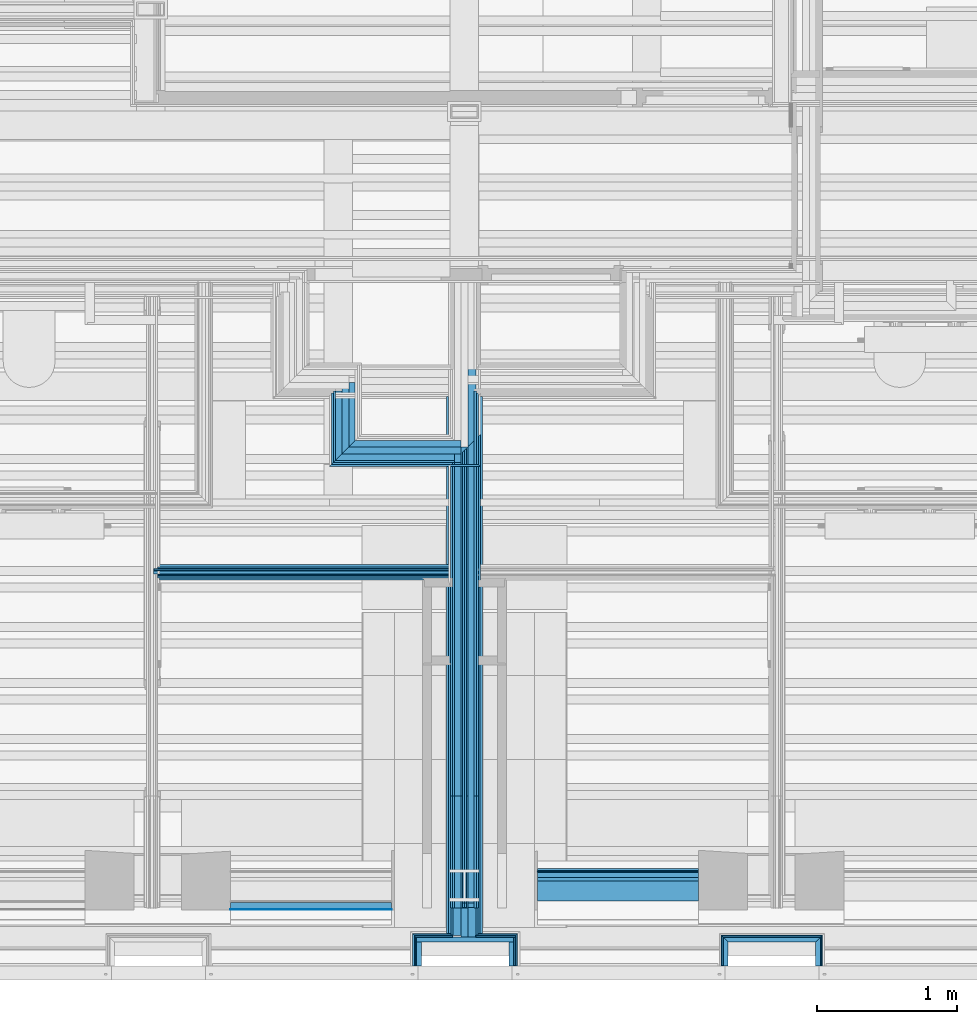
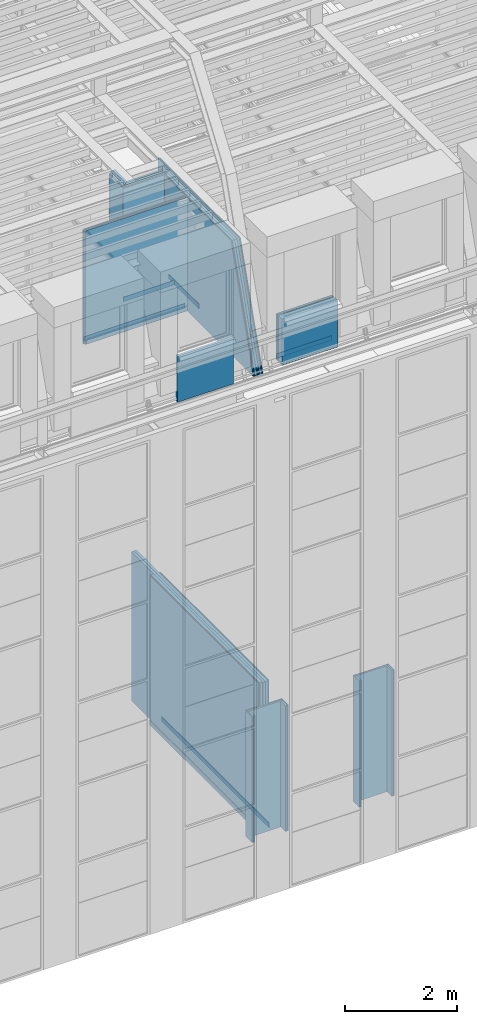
# One storey, part 33 of 183: 61 building element parts, 13 elements without a shape of their own.
"""IFC2X3 building model written with IfcOpenShell, lengths in metres."""

import ifcopenshell
import ifcopenshell.guid

model = None  # the IFC model being written
_history = None  # IfcOwnerHistory: only IFC2X3 demands one
_inside = {}  # id of a spatial element -> (the spatial element, [elements in it])
_under = {}  # id of a project, library or spatial element -> (it, [spatial elements below it])
_declared = {}  # id of a project -> (the project, [libraries it declares])
_typed = {}  # id of a type object -> (the type object, [elements of that type])
_made_of = {}  # id of a material, layer set ... -> (it, [elements and type objects made of it])


def new_model(schema):
    """Start an empty IFC model of exactly this schema.

    Asked for "IFC4X3", IfcOpenShell would pick the latest addendum, in which some entities
    have other attributes; the version numbers below select the first issue.
    IFC2X3 requires an IfcOwnerHistory on every rooted entity: one is made here for all.
    """
    global model, _history
    if schema == "IFC4X3":
        model = ifcopenshell.file(schema_version=(4, 3, 0, 0))
    else:
        model = ifcopenshell.file(schema=schema)
    _inside.clear()
    _under.clear()
    _declared.clear()
    _typed.clear()
    _made_of.clear()
    _history = None
    if model.schema == "IFC2X3":
        org = make("IfcOrganization", Name="unknown")
        user = make(
            "IfcPersonAndOrganization",
            ThePerson=make("IfcPerson", FamilyName="unknown"),
            TheOrganization=org,
        )
        app = make(
            "IfcApplication",
            ApplicationDeveloper=org,
            Version="unknown",
            ApplicationFullName="unknown",
            ApplicationIdentifier="unknown",
        )
        _history = make(
            "IfcOwnerHistory",
            OwningUser=user,
            OwningApplication=app,
            ChangeAction="ADDED",
            CreationDate=0,
        )
    return model


def make(cls, **values):
    """One entity of the class cls with the attributes given. An attribute that is None is left unset."""
    return model.create_entity(
        cls, **{name: value for name, value in values.items() if value is not None}
    )


def entity(cls, *values):
    """Any entity or typed value of the class cls, its attributes in the order of the schema. None: left unset."""
    e = model.create_entity(cls)
    for i, value in enumerate(values):
        if value is not None:
            e[i] = value
    return e


def rooted(cls, **values):
    """An entity with a GlobalId (a new one), such as an element, a storey or a relation."""
    return make(cls, GlobalId=ifcopenshell.guid.new(), OwnerHistory=_history, **values)


def si_unit(unit_type, name, prefix=None):
    """IfcSIUnit, for example si_unit("LENGTHUNIT", "METRE", prefix="MILLI")."""
    return make("IfcSIUnit", UnitType=unit_type, Prefix=prefix, Name=name)


def converted_unit(unit_type, name, factor, base, dimensions=None, offset=None):
    """IfcConversionBasedUnit, such as the inch: factor (a typed value) times the base unit."""
    return make(
        "IfcConversionBasedUnit"
        if offset is None
        else "IfcConversionBasedUnitWithOffset",
        ConversionOffset=offset,
        Dimensions=None
        if dimensions is None
        else entity("IfcDimensionalExponents", *dimensions),
        UnitType=unit_type,
        Name=name,
        ConversionFactor=make(
            "IfcMeasureWithUnit", ValueComponent=factor, UnitComponent=base
        ),
    )


def derived_unit(unit_type, elements):
    """IfcDerivedUnit: a product of units, each with its exponent."""
    return make(
        "IfcDerivedUnit",
        Elements=[
            make("IfcDerivedUnitElement", Unit=unit, Exponent=power)
            for unit, power in elements
        ],
        UnitType=unit_type,
    )


def money_unit(currency):
    """IfcMonetaryUnit."""
    return make("IfcMonetaryUnit", Currency=currency)


def assignment(units):
    """IfcUnitAssignment: the units of a project."""
    return None if units is None else make("IfcUnitAssignment", Units=units)


def point(xyz):
    """IfcCartesianPoint."""
    return None if xyz is None else make("IfcCartesianPoint", Coordinates=xyz)


def direction(xyz):
    """IfcDirection."""
    return None if xyz is None else make("IfcDirection", DirectionRatios=xyz)


def frame(location, z_axis=None, x_axis=None):
    """IfcAxis2Placement3D, a coordinate frame: its origin and axes. An axis left out is left unset."""
    return make(
        "IfcAxis2Placement3D",
        Location=point(location),
        Axis=direction(z_axis),
        RefDirection=direction(x_axis),
    )


def frame_2d(location, x_axis=None):
    """IfcAxis2Placement2D, a coordinate frame in the plane: its origin and x axis."""
    return make(
        "IfcAxis2Placement2D", Location=point(location), RefDirection=direction(x_axis)
    )


def origin_with_axes():
    """The frame at (0, 0, 0) with the z axis (0, 0, 1) and the x axis (1, 0, 0) written out."""
    return frame((0.0, 0.0, 0.0), z_axis=(0.0, 0.0, 1.0), x_axis=(1.0, 0.0, 0.0))


def place(relative_to, where):
    """IfcLocalPlacement: puts the frame where relative to a parent placement (None: the world)."""
    return make(
        "IfcLocalPlacement", PlacementRelTo=relative_to, RelativePlacement=where
    )


def context(
    kind, dimensions, precision=None, world=None, true_north=None, identifier=None
):
    """IfcGeometricRepresentationContext, for example the 3D "Model" context."""
    return make(
        "IfcGeometricRepresentationContext",
        ContextIdentifier=identifier,
        ContextType=kind,
        CoordinateSpaceDimension=dimensions,
        Precision=precision,
        WorldCoordinateSystem=world,
        TrueNorth=true_north,
    )


def subcontext(parent, identifier, kind, view, scale=None):
    """IfcGeometricRepresentationSubContext, for example "Body" below "Model"."""
    return make(
        "IfcGeometricRepresentationSubContext",
        ContextIdentifier=identifier,
        ContextType=kind,
        ParentContext=parent,
        TargetScale=scale,
        TargetView=view,
    )


def project(units=None, contexts=None):
    """IfcProject with its units and contexts."""
    return rooted(
        "IfcProject",
        Name="project",
        RepresentationContexts=contexts,
        UnitsInContext=assignment(units),
    )


def spatial(cls, under=None, at=None, **own):
    """A site, building, storey or space (cls), placed at a placement, below another one or the project."""
    s = rooted(cls, ObjectPlacement=at, **own)
    if under is not None:
        _under.setdefault(under.id(), (under, []))[1].append(s)
    return s


def polyline(points):
    """IfcPolyline through the points."""
    return make("IfcPolyline", Points=[point(p) for p in points])


def profile(cls, at=None, kind="AREA", **sizes):
    """A parametric profile (cls). Its sizes go by their IFC names, for example OverallWidth=200.0."""
    return make(cls, ProfileType=kind, Position=at, **sizes)


def rectangle(**sizes):
    """IfcRectangleProfileDef."""
    return profile("IfcRectangleProfileDef", **sizes)


def outline(outer, holes=None, kind="AREA"):
    """IfcArbitraryClosedProfileDef: a profile drawn as a closed curve; with holes, ...WithVoids."""
    if holes is None:
        return make("IfcArbitraryClosedProfileDef", ProfileType=kind, OuterCurve=outer)
    return make(
        "IfcArbitraryProfileDefWithVoids",
        ProfileType=kind,
        OuterCurve=outer,
        InnerCurves=holes,
    )


def extrude(swept, where, along, depth):
    """IfcExtrudedAreaSolid: the profile swept, set in the frame where, extruded along a direction by depth."""
    return make(
        "IfcExtrudedAreaSolid",
        SweptArea=swept,
        Position=where,
        ExtrudedDirection=direction(along),
        Depth=depth,
    )


def clip(a, b, op="DIFFERENCE"):
    """IfcBooleanClippingResult: the solid a cut by the half space b."""
    return make(
        "IfcBooleanClippingResult", Operator=op, FirstOperand=a, SecondOperand=b
    )


def halfspace(plane, agree):
    """IfcHalfSpaceSolid: all space on one side of the plane z = 0 of the frame plane."""
    return make(
        "IfcHalfSpaceSolid",
        BaseSurface=make("IfcPlane", Position=plane),
        AgreementFlag=agree,
    )


def shape(context_of_items, identifier, shape_type, items):
    """IfcShapeRepresentation: the items that make up one representation, for example the "Body"."""
    return make(
        "IfcShapeRepresentation",
        ContextOfItems=context_of_items,
        RepresentationIdentifier=identifier,
        RepresentationType=shape_type,
        Items=items,
    )


def material(Name=None, Category=None):
    """IfcMaterial."""
    return make("IfcMaterial", Name=Name, Category=Category)


def made_of(thing, what):
    """Note that an element or type object is made of a material, layer set ...; save() writes the relation."""
    if what is not None:
        _made_of.setdefault(what.id(), (what, []))[1].append(thing)
    return thing


def type_object(cls, material=None, **own):
    """A type object (cls), such as IfcWallType, which elements share."""
    return made_of(rooted(cls, **own), material)


def element(
    cls,
    number,
    at=None,
    inside=None,
    cuts=None,
    type_object=None,
    material=None,
    context=None,
    identifier="Body",
    shape_type=None,
    held_by="IfcProductDefinitionShape",
    body=None,
    shapes=None,
    **own,
):
    """One element of the class cls, such as IfcWall. Its Tag is "e" and its number.

    at: its placement. inside: the storey or other place that contains it. cuts: it is an
    opening in that element (IfcRelVoidsElement). A single representation is given by context,
    identifier, shape_type and body (its items); several are given by shapes. held_by: the class
    of the entity that holds the representations. save() writes the other relations.
    """
    e = rooted(cls, Tag="e%d" % number, ObjectPlacement=at, **own)
    if body is not None:
        shapes = [shape(context, identifier, shape_type, body)]
    if shapes is not None:
        e.Representation = make(held_by, Representations=shapes)
    if inside is not None:
        _inside.setdefault(inside.id(), (inside, []))[1].append(e)
    if cuts is not None:
        rooted(
            "IfcRelVoidsElement", RelatingBuildingElement=cuts, RelatedOpeningElement=e
        )
    if type_object is not None:
        _typed.setdefault(type_object.id(), (type_object, []))[1].append(e)
    return made_of(e, material)


def aggregate(whole, parts):
    """IfcRelAggregates: a whole, such as a stair, and the parts it consists of."""
    return rooted("IfcRelAggregates", RelatingObject=whole, RelatedObjects=parts)


def save(model, path):
    """Write the relations noted so far, then the file.

    IfcRelAggregates (storeys below a building ...), IfcRelContainedInSpatialStructure (elements
    in a storey), IfcRelDefinesByType, IfcRelAssociatesMaterial and IfcRelDeclares: one each for
    every whole, place, type object, material and project.
    """
    for whole, parts in _under.values():
        aggregate(whole, parts)
    for where, things in _inside.values():
        rooted(
            "IfcRelContainedInSpatialStructure",
            RelatedElements=things,
            RelatingStructure=where,
        )
    for kind, things in _typed.values():
        rooted("IfcRelDefinesByType", RelatedObjects=things, RelatingType=kind)
    for what, things in _made_of.values():
        rooted("IfcRelAssociatesMaterial", RelatedObjects=things, RelatingMaterial=what)
    for by, libraries in _declared.values():
        rooted("IfcRelDeclares", RelatingContext=by, RelatedDefinitions=libraries)
    model.write(path)


model = new_model("IFC2X3")

# Units and contexts
model_context = context("Model", 3, precision=1e-05, world=origin_with_axes(), true_north=direction((0.0, 1.0)))
body_context = subcontext(model_context, "Body", "Model", "MODEL_VIEW", scale=1.0)
ifc_project = project(units=[si_unit("LENGTHUNIT", "METRE"), si_unit("AREAUNIT", "SQUARE_METRE"), si_unit("VOLUMEUNIT", "CUBIC_METRE"), si_unit("ABSORBEDDOSEUNIT", "GRAY"), si_unit("AMOUNTOFSUBSTANCEUNIT", "MOLE"), si_unit("DOSEEQUIVALENTUNIT", "SIEVERT"), si_unit("ELECTRICCAPACITANCEUNIT", "FARAD"), si_unit("ELECTRICCHARGEUNIT", "COULOMB"), si_unit("ELECTRICCONDUCTANCEUNIT", "SIEMENS"), si_unit("ELECTRICCURRENTUNIT", "AMPERE"), si_unit("ELECTRICRESISTANCEUNIT", "OHM"), si_unit("ELECTRICVOLTAGEUNIT", "VOLT"), si_unit("ENERGYUNIT", "JOULE"), si_unit("FORCEUNIT", "NEWTON"), si_unit("FREQUENCYUNIT", "HERTZ"), si_unit("ILLUMINANCEUNIT", "LUX"), si_unit("INDUCTANCEUNIT", "HENRY"), si_unit("LUMINOUSFLUXUNIT", "LUMEN"), si_unit("LUMINOUSINTENSITYUNIT", "CANDELA"), si_unit("MAGNETICFLUXDENSITYUNIT", "TESLA"), si_unit("MAGNETICFLUXUNIT", "WEBER"), si_unit("MASSUNIT", "GRAM"), converted_unit("PLANEANGLEUNIT", "degree", entity("IfcReal", 0.0174532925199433), si_unit("PLANEANGLEUNIT", "RADIAN"), dimensions=[0, 0, 0, 0, 0, 0, 0]), si_unit("POWERUNIT", "WATT"), si_unit("PRESSUREUNIT", "PASCAL"), si_unit("RADIOACTIVITYUNIT", "BECQUEREL"), si_unit("SOLIDANGLEUNIT", "STERADIAN"), si_unit("THERMODYNAMICTEMPERATUREUNIT", "KELVIN"), si_unit("TIMEUNIT", "SECOND"), derived_unit("ACCELERATIONUNIT", [(si_unit("LENGTHUNIT", "METRE"), 1), (si_unit("TIMEUNIT", "SECOND"), -2)]), derived_unit("ANGULARVELOCITYUNIT", [(converted_unit("PLANEANGLEUNIT", "degree", entity("IfcReal", 0.0174532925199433), si_unit("PLANEANGLEUNIT", "RADIAN"), dimensions=[0, 0, 0, 0, 0, 0, 0]), 1), (si_unit("TIMEUNIT", "SECOND"), -1)]), derived_unit("CURVATUREUNIT", [(converted_unit("PLANEANGLEUNIT", "degree", entity("IfcReal", 0.0174532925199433), si_unit("PLANEANGLEUNIT", "RADIAN"), dimensions=[0, 0, 0, 0, 0, 0, 0]), 1), (si_unit("LENGTHUNIT", "METRE"), -1)]), derived_unit("DYNAMICVISCOSITYUNIT", [(si_unit("PRESSUREUNIT", "PASCAL"), 1), (si_unit("TIMEUNIT", "SECOND"), 1)]), derived_unit("HEATFLUXDENSITYUNIT", [(si_unit("POWERUNIT", "WATT"), 1), (si_unit("LENGTHUNIT", "METRE"), -2)]), derived_unit("HEATINGVALUEUNIT", [(si_unit("ENERGYUNIT", "JOULE"), 1), (si_unit("MASSUNIT", "GRAM"), -1)]), derived_unit("INTEGERCOUNTRATEUNIT", [(si_unit("TIMEUNIT", "SECOND"), -1)]), derived_unit("IONCONCENTRATIONUNIT", [(si_unit("MASSUNIT", "GRAM"), 1), (si_unit("VOLUMEUNIT", "CUBIC_METRE"), -1)]), derived_unit("ISOTHERMALMOISTURECAPACITYUNIT", [(si_unit("VOLUMEUNIT", "CUBIC_METRE"), 1), (si_unit("MASSUNIT", "GRAM"), -1)]), derived_unit("KINEMATICVISCOSITYUNIT", [(si_unit("AREAUNIT", "SQUARE_METRE"), 1), (si_unit("TIMEUNIT", "SECOND"), -1)]), derived_unit("LINEARFORCEUNIT", [(si_unit("FORCEUNIT", "NEWTON"), 1), (si_unit("LENGTHUNIT", "METRE"), -1)]), derived_unit("LINEARMOMENTUNIT", [(si_unit("FORCEUNIT", "NEWTON"), 1), (si_unit("LENGTHUNIT", "METRE"), -1)]), derived_unit("LINEARSTIFFNESSUNIT", [(si_unit("FORCEUNIT", "NEWTON"), 1), (si_unit("LENGTHUNIT", "METRE"), -1)]), derived_unit("LINEARVELOCITYUNIT", [(si_unit("LENGTHUNIT", "METRE"), 1), (si_unit("TIMEUNIT", "SECOND"), -1)]), derived_unit("LUMINOUSINTENSITYDISTRIBUTIONUNIT", [(si_unit("LUMINOUSINTENSITYUNIT", "CANDELA"), 1), (si_unit("LUMINOUSFLUXUNIT", "LUMEN"), -1)]), derived_unit("MASSDENSITYUNIT", [(si_unit("MASSUNIT", "GRAM"), 1), (si_unit("VOLUMEUNIT", "CUBIC_METRE"), -1)]), derived_unit("MASSFLOWRATEUNIT", [(si_unit("MASSUNIT", "GRAM"), 1), (si_unit("TIMEUNIT", "SECOND"), -1)]), derived_unit("MASSPERLENGTHUNIT", [(si_unit("MASSUNIT", "GRAM"), 1), (si_unit("LENGTHUNIT", "METRE"), -1)]), derived_unit("MODULUSOFELASTICITYUNIT", [(si_unit("FORCEUNIT", "NEWTON"), 1), (si_unit("AREAUNIT", "SQUARE_METRE"), -1)]), derived_unit("MODULUSOFLINEARSUBGRADEREACTIONUNIT", [(si_unit("FORCEUNIT", "NEWTON"), 1), (si_unit("LENGTHUNIT", "METRE"), -2)]), derived_unit("MODULUSOFROTATIONALSUBGRADEREACTIONUNIT", [(si_unit("FORCEUNIT", "NEWTON"), 1), (si_unit("LENGTHUNIT", "METRE"), 1)]), derived_unit("MODULUSOFSUBGRADEREACTIONUNIT", [(si_unit("FORCEUNIT", "NEWTON"), 1), (si_unit("VOLUMEUNIT", "CUBIC_METRE"), -1)]), derived_unit("MOISTUREDIFFUSIVITYUNIT", [(si_unit("VOLUMEUNIT", "CUBIC_METRE"), 1), (si_unit("TIMEUNIT", "SECOND"), -1)]), derived_unit("MOLECULARWEIGHTUNIT", [(si_unit("MASSUNIT", "GRAM"), 1), (si_unit("AMOUNTOFSUBSTANCEUNIT", "MOLE"), -1)]), derived_unit("PLANARFORCEUNIT", [(si_unit("FORCEUNIT", "NEWTON"), 1), (si_unit("LENGTHUNIT", "METRE"), -2)]), derived_unit("ROTATIONALFREQUENCYUNIT", [(si_unit("TIMEUNIT", "SECOND"), -1)]), derived_unit("ROTATIONALMASSUNIT", [(si_unit("MASSUNIT", "GRAM"), 1), (si_unit("LENGTHUNIT", "METRE"), 2)]), derived_unit("ROTATIONALSTIFFNESSUNIT", [(si_unit("FORCEUNIT", "NEWTON"), 1), (si_unit("LENGTHUNIT", "METRE"), 1), (converted_unit("PLANEANGLEUNIT", "degree", entity("IfcReal", 0.0174532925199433), si_unit("PLANEANGLEUNIT", "RADIAN"), dimensions=[0, 0, 0, 0, 0, 0, 0]), -1)]), derived_unit("SECTIONAREAINTEGRALUNIT", [(si_unit("LENGTHUNIT", "METRE"), 5)]), derived_unit("SECTIONMODULUSUNIT", [(si_unit("LENGTHUNIT", "METRE"), 3)]), derived_unit("SHEARMODULUSUNIT", [(si_unit("FORCEUNIT", "NEWTON"), 1), (si_unit("AREAUNIT", "SQUARE_METRE"), -1)]), derived_unit("SOUNDPOWERUNIT", [(si_unit("ENERGYUNIT", "JOULE"), 1), (si_unit("TIMEUNIT", "SECOND"), -1)]), derived_unit("SPECIFICHEATCAPACITYUNIT", [(si_unit("FORCEUNIT", "NEWTON"), 1), (si_unit("MASSUNIT", "GRAM"), -1), (si_unit("THERMODYNAMICTEMPERATUREUNIT", "KELVIN"), -1)]), derived_unit("TEMPERATUREGRADIENTUNIT", [(si_unit("THERMODYNAMICTEMPERATUREUNIT", "KELVIN"), 1), (si_unit("LENGTHUNIT", "METRE"), -1)]), derived_unit("THERMALADMITTANCEUNIT", [(si_unit("POWERUNIT", "WATT"), 1), (si_unit("AREAUNIT", "SQUARE_METRE"), -1), (si_unit("THERMODYNAMICTEMPERATUREUNIT", "KELVIN"), -1)]), derived_unit("THERMALCONDUCTANCEUNIT", [(si_unit("POWERUNIT", "WATT"), 1), (si_unit("LENGTHUNIT", "METRE"), -1), (si_unit("THERMODYNAMICTEMPERATUREUNIT", "KELVIN"), -1)]), derived_unit("THERMALEXPANSIONCOEFFICIENTUNIT", [(si_unit("THERMODYNAMICTEMPERATUREUNIT", "KELVIN"), -1)]), derived_unit("THERMALRESISTANCEUNIT", [(si_unit("AREAUNIT", "SQUARE_METRE"), 1), (si_unit("POWERUNIT", "WATT"), -1)]), derived_unit("THERMALTRANSMITTANCEUNIT", [(si_unit("POWERUNIT", "WATT"), 1), (si_unit("AREAUNIT", "SQUARE_METRE"), -1), (si_unit("THERMODYNAMICTEMPERATUREUNIT", "KELVIN"), -1)]), derived_unit("TORQUEUNIT", [(si_unit("FORCEUNIT", "NEWTON"), 1), (si_unit("LENGTHUNIT", "METRE"), 1)]), derived_unit("VAPORPERMEABILITYUNIT", [(si_unit("MASSUNIT", "GRAM"), 1), (si_unit("TIMEUNIT", "SECOND"), -1)]), derived_unit("VOLUMETRICFLOWRATEUNIT", [(si_unit("VOLUMEUNIT", "CUBIC_METRE"), 1), (si_unit("TIMEUNIT", "SECOND"), -1)]), derived_unit("WARPINGCONSTANTUNIT", [(si_unit("LENGTHUNIT", "METRE"), 6)]), derived_unit("WARPINGMOMENTUNIT", [(si_unit("FORCEUNIT", "NEWTON"), 1), (si_unit("LENGTHUNIT", "METRE"), 2)]), money_unit("GBP")], contexts=[model_context])

# Site, building, storey
site_placement = place(None, origin_with_axes())
site = spatial("IfcSite", under=ifc_project, at=site_placement, Name="Site", CompositionType="ELEMENT")
building_placement = place(site_placement, origin_with_axes())
building = spatial("IfcBuilding", under=site, at=building_placement, Name="Building01", CompositionType="ELEMENT")
storey_placement = place(building_placement, frame((0.0, 0.0, 5.15), z_axis=(0.0, 0.0, 1.0), x_axis=(1.0, 0.0, 0.0)))
storey = spatial("IfcBuildingStorey", under=building, at=storey_placement, Name="1F", CompositionType="ELEMENT", Elevation=5.15)

# Wall, building element parts
wall_type_1 = type_object("IfcWallType", Name="SHE_A-Walls_Type06d_ExternalWallInsulation_48mm", PredefinedType="NOTDEFINED")
wall_1_placement = place(storey_placement, frame((15.383, 0.1, 0.0), z_axis=(0.0, 0.0, 1.0), x_axis=(0.0, 1.0, 0.0)))
wall_1 = element("IfcWall", 1, at=wall_1_placement, inside=storey, type_object=wall_type_1, Name="6D", ObjectType="SHE_A-Walls_Type06d_ExternalWallInsulation_48mm")
ifc_material_1 = material(Name="A_BSUK_Insulation")
placement_1 = place(wall_1_placement, origin_with_axes())
building_element_part_1 = element("IfcBuildingElementPart", 2, at=placement_1, material=ifc_material_1, Name="1", context=body_context, shape_type="SweptSolid", body=[
    extrude(outline(polyline([(0.206, 0.036), (0.0, 0.036), (0.0, 0.0), (0.17, 0.0), (0.206, 0.036)])), origin_with_axes(), (0.0, 0.0, 1.0), 2.74),
])
ifc_material_2 = material(Name="A_BSUK_WallInternal_Finishes_Plasterboard")
building_element_part_2 = element("IfcBuildingElementPart", 3, at=placement_1, material=ifc_material_2, Name="2", context=body_context, shape_type="SweptSolid", body=[
    extrude(outline(polyline([(0.218, 0.048), (0.0, 0.048), (0.0, 0.035), (0.205, 0.035), (0.218, 0.048)])), origin_with_axes(), (0.0, 0.0, 1.0), 2.74),
])
aggregate(wall_1, [building_element_part_1, building_element_part_2])

wall_2_placement = place(storey_placement, frame((15.383, 0.27, 0.0), z_axis=(0.0, 0.0, 1.0), x_axis=(1.0, 0.0, 0.0)))
wall_2 = element("IfcWall", 4, at=wall_2_placement, inside=storey, type_object=wall_type_1, Name="6D", ObjectType="SHE_A-Walls_Type06d_ExternalWallInsulation_48mm")
placement_2 = place(wall_2_placement, origin_with_axes())
building_element_part_3 = element("IfcBuildingElementPart", 5, at=placement_2, material=ifc_material_1, Name="1", context=body_context, shape_type="SweptSolid", body=[
    extrude(outline(polyline([(0.66, 0.036), (-0.036, 0.036), (0.0, 0.0), (0.624, 0.0), (0.66, 0.036)])), origin_with_axes(), (0.0, 0.0, 1.0), 2.74),
])
building_element_part_4 = element("IfcBuildingElementPart", 6, at=placement_2, material=ifc_material_2, Name="2", context=body_context, shape_type="SweptSolid", body=[
    extrude(outline(polyline([(0.672, 0.048), (-0.048, 0.048), (-0.035, 0.035), (0.659, 0.035), (0.672, 0.048)])), origin_with_axes(), (0.0, 0.0, 1.0), 2.74),
])
aggregate(wall_2, [building_element_part_3, building_element_part_4])

wall_3_placement = place(storey_placement, frame((16.007, 0.27, 0.0), z_axis=(0.0, 0.0, 1.0), x_axis=(0.0, -1.0, 0.0)))
wall_3 = element("IfcWall", 7, at=wall_3_placement, inside=storey, type_object=wall_type_1, Name="6D", ObjectType="SHE_A-Walls_Type06d_ExternalWallInsulation_48mm")
placement_3 = place(wall_3_placement, origin_with_axes())
building_element_part_5 = element("IfcBuildingElementPart", 8, at=placement_3, material=ifc_material_1, Name="1", context=body_context, shape_type="SweptSolid", body=[
    extrude(outline(polyline([(-0.036, 0.036), (0.0, 0.0), (0.17, 0.0), (0.17, 0.036), (-0.036, 0.036)])), origin_with_axes(), (0.0, 0.0, 1.0), 2.74),
])
building_element_part_6 = element("IfcBuildingElementPart", 9, at=placement_3, material=ifc_material_2, Name="2", context=body_context, shape_type="SweptSolid", body=[
    extrude(outline(polyline([(-0.048, 0.048), (-0.035, 0.035), (0.17, 0.035), (0.17, 0.048), (-0.048, 0.048)])), origin_with_axes(), (0.0, 0.0, 1.0), 2.74),
])
aggregate(wall_3, [building_element_part_5, building_element_part_6])

wall_type_2 = type_object("IfcWallType", Name="SHE_A-Walls_Type01c_Partywall_225mm_twin_tall", PredefinedType="NOTDEFINED")
wall_4_placement = place(storey_placement, frame((13.5005, 4.995, 0.0), z_axis=(0.0, 0.0, 1.0), x_axis=(0.0, -1.0, 0.0)))
wall_4 = element("IfcWall", 10, at=wall_4_placement, inside=storey, type_object=wall_type_2, Name="1C", ObjectType="SHE_A-Walls_Type01c_Partywall_225mm_twin_tall")
ifc_material_3 = material(Name="A_BSUK_Walls_Timber")
placement_4 = place(wall_4_placement, origin_with_axes())
building_element_part_7 = element("IfcBuildingElementPart", 11, at=placement_4, material=ifc_material_3, Name="1", context=body_context, shape_type="SweptSolid", body=[
    extrude(rectangle(XDim=3.831428, YDim=0.015, at=frame_2d((2.746286, -0.1205), x_axis=(-1.0, 0.0))), frame((0.0, 0.0, 0.015), z_axis=(0.0, 0.0, 1.0), x_axis=(1.0, 0.0, 0.0)), (0.0, 0.0, 1.0), 0.1),
])
building_element_part_8 = element("IfcBuildingElementPart", 12, at=placement_4, material=ifc_material_2, Name="3", context=body_context, shape_type="SweptSolid", body=[
    extrude(rectangle(XDim=3.846428, YDim=0.015, at=frame_2d((2.738786, -0.1055), x_axis=(-1.0, 0.0))), origin_with_axes(), (0.0, 0.0, 1.0), 3.24),
])
building_element_part_9 = element("IfcBuildingElementPart", 13, at=placement_4, material=ifc_material_2, Name="5", context=body_context, shape_type="SweptSolid", body=[
    extrude(rectangle(XDim=3.876428, YDim=0.015, at=frame_2d((2.738786, -0.0905), x_axis=(-1.0, 0.0))), origin_with_axes(), (0.0, 0.0, 1.0), 3.24),
])
ifc_material_4 = material(Name="Air Cavity")
building_element_part_10 = element("IfcBuildingElementPart", 14, at=placement_4, material=ifc_material_4, Name="6", context=body_context, shape_type="SweptSolid", body=[
    extrude(rectangle(XDim=3.876428, YDim=0.058, at=frame_2d((2.738786, -0.054), x_axis=(-1.0, 0.0))), origin_with_axes(), (0.0, 0.0, 1.0), 3.24),
])
building_element_part_11 = element("IfcBuildingElementPart", 15, at=placement_4, material=ifc_material_1, Name="7", context=body_context, shape_type="SweptSolid", body=[
    extrude(rectangle(XDim=4.689, YDim=0.05, at=frame_2d((2.3445, 0.0), x_axis=(-1.0, 0.0))), origin_with_axes(), (0.0, 0.0, 1.0), 3.24),
])
building_element_part_12 = element("IfcBuildingElementPart", 16, at=placement_4, material=ifc_material_4, Name="8", context=body_context, shape_type="SweptSolid", body=[
    extrude(rectangle(XDim=4.689, YDim=0.057, at=frame_2d((2.3445, 0.0535), x_axis=(-1.0, 0.0))), origin_with_axes(), (0.0, 0.0, 1.0), 3.24),
])
building_element_part_13 = element("IfcBuildingElementPart", 17, at=placement_4, material=ifc_material_2, Name="10", context=body_context, shape_type="SweptSolid", body=[
    extrude(rectangle(XDim=3.876428, YDim=0.015, at=frame_2d((2.738786, 0.0895), x_axis=(-1.0, 0.0))), origin_with_axes(), (0.0, 0.0, 1.0), 3.24),
])
building_element_part_14 = element("IfcBuildingElementPart", 18, at=placement_4, material=ifc_material_2, Name="12", context=body_context, shape_type="SweptSolid", body=[
    extrude(rectangle(XDim=3.846428, YDim=0.015, at=frame_2d((2.738786, 0.1045), x_axis=(-1.0, 0.0))), origin_with_axes(), (0.0, 0.0, 1.0), 3.24),
])
building_element_part_15 = element("IfcBuildingElementPart", 19, at=placement_4, material=ifc_material_3, Name="13", context=body_context, shape_type="SweptSolid", body=[
    extrude(rectangle(XDim=3.831428, YDim=0.015, at=frame_2d((2.746286, 0.1195), x_axis=(-1.0, 0.0))), frame((0.0, 0.0, 0.015), z_axis=(0.0, 0.0, 1.0), x_axis=(1.0, 0.0, 0.0)), (0.0, 0.0, 1.0), 0.1),
])
aggregate(wall_4, [building_element_part_7, building_element_part_8, building_element_part_9, building_element_part_10, building_element_part_11, building_element_part_12, building_element_part_13, building_element_part_14, building_element_part_15])

wall_type_3 = type_object("IfcWallType", Name="SHE_A-Walls_Type06f_ExternalWallInsulation_48+15mm", PredefinedType="NOTDEFINED")
wall_5_placement = place(storey_placement, frame((13.157, 0.27, 0.0), z_axis=(0.0, 0.0, 1.0), x_axis=(1.0, 0.0, 0.0)))
wall_5 = element("IfcWall", 20, at=wall_5_placement, inside=storey, type_object=wall_type_3, Name="6F", ObjectType="SHE_A-Walls_Type06f_ExternalWallInsulation_48+15mm")
placement_5 = place(wall_5_placement, origin_with_axes())
building_element_part_16 = element("IfcBuildingElementPart", 21, at=placement_5, material=ifc_material_1, Name="1", context=body_context, shape_type="SweptSolid", body=[
    extrude(rectangle(XDim=0.696, YDim=0.036, at=frame_2d((0.348, 0.018), x_axis=(-1.0, 0.0))), origin_with_axes(), (0.0, 0.0, 1.0), 2.74),
])
building_element_part_17 = element("IfcBuildingElementPart", 22, at=placement_5, material=ifc_material_2, Name="2", context=body_context, shape_type="SweptSolid", body=[
    extrude(rectangle(XDim=0.2725, YDim=0.012, at=frame_2d((0.12425, 0.042), x_axis=(-1.0, 0.0))), origin_with_axes(), (0.0, 0.0, 1.0), 2.74),
])
building_element_part_18 = element("IfcBuildingElementPart", 23, at=placement_5, material=ifc_material_2, Name="3", context=body_context, shape_type="SweptSolid", body=[
    extrude(rectangle(XDim=0.2825, YDim=0.012, at=frame_2d((0.56675, 0.042), x_axis=(-1.0, 0.0))), origin_with_axes(), (0.0, 0.0, 1.0), 2.74),
])
building_element_part_19 = element("IfcBuildingElementPart", 24, at=placement_5, material=ifc_material_2, Name="4", context=body_context, shape_type="SweptSolid", body=[
    extrude(outline(polyline([(0.723, 0.063), (0.4405, 0.063), (0.4405, 0.048), (0.708, 0.048), (0.723, 0.063)])), origin_with_axes(), (0.0, 0.0, 1.0), 2.74),
])
building_element_part_20 = element("IfcBuildingElementPart", 25, at=placement_5, material=ifc_material_2, Name="5", context=body_context, shape_type="SweptSolid", body=[
    extrude(outline(polyline([(0.2455, 0.063), (-0.027, 0.063), (-0.012, 0.048), (0.2455, 0.048), (0.2455, 0.063)])), origin_with_axes(), (0.0, 0.0, 1.0), 2.74),
])
aggregate(wall_5, [building_element_part_16, building_element_part_17, building_element_part_18, building_element_part_19, building_element_part_20])

wall_6_placement = place(storey_placement, frame((13.817, 0.27, 0.0), z_axis=(0.0, 0.0, 1.0), x_axis=(0.0, -1.0, 0.0)))
wall_6 = element("IfcWall", 26, at=wall_6_placement, inside=storey, type_object=wall_type_3, Name="6F", ObjectType="SHE_A-Walls_Type06f_ExternalWallInsulation_48+15mm")
placement_6 = place(wall_6_placement, origin_with_axes())
building_element_part_21 = element("IfcBuildingElementPart", 27, at=placement_6, material=ifc_material_1, Name="1", context=body_context, shape_type="SweptSolid", body=[
    extrude(rectangle(XDim=0.036, YDim=0.17, at=frame_2d((0.085, 0.018), x_axis=(0.0, -1.0))), origin_with_axes(), (0.0, 0.0, 1.0), 2.74),
])
building_element_part_22 = element("IfcBuildingElementPart", 28, at=placement_6, material=ifc_material_2, Name="2", context=body_context, shape_type="SweptSolid", body=[
    extrude(rectangle(XDim=0.012, YDim=0.206, at=frame_2d((0.067, 0.042), x_axis=(0.0, -1.0))), origin_with_axes(), (0.0, 0.0, 1.0), 2.74),
])
building_element_part_23 = element("IfcBuildingElementPart", 29, at=placement_6, material=ifc_material_2, Name="3", context=body_context, shape_type="SweptSolid", body=[
    extrude(outline(polyline([(-0.063, 0.063), (-0.048, 0.048), (0.17, 0.048), (0.17, 0.063), (-0.063, 0.063)])), origin_with_axes(), (0.0, 0.0, 1.0), 2.74),
])
aggregate(wall_6, [building_element_part_21, building_element_part_22, building_element_part_23])

wall_7_placement = place(storey_placement, frame((13.193, 0.1, 0.0), z_axis=(0.0, 0.0, 1.0), x_axis=(0.0, 1.0, 0.0)))
wall_7 = element("IfcWall", 30, at=wall_7_placement, inside=storey, type_object=wall_type_3, Name="6F", ObjectType="SHE_A-Walls_Type06f_ExternalWallInsulation_48+15mm")
placement_7 = place(wall_7_placement, origin_with_axes())
building_element_part_24 = element("IfcBuildingElementPart", 31, at=placement_7, material=ifc_material_1, Name="1", context=body_context, shape_type="SweptSolid", body=[
    extrude(rectangle(XDim=0.17, YDim=0.036, at=frame_2d((0.085, 0.018), x_axis=(-1.0, 0.0))), origin_with_axes(), (0.0, 0.0, 1.0), 2.74),
])
building_element_part_25 = element("IfcBuildingElementPart", 32, at=placement_7, material=ifc_material_2, Name="2", context=body_context, shape_type="SweptSolid", body=[
    extrude(rectangle(XDim=0.206, YDim=0.012, at=frame_2d((0.103, 0.042), x_axis=(-1.0, 0.0))), origin_with_axes(), (0.0, 0.0, 1.0), 2.74),
])
building_element_part_26 = element("IfcBuildingElementPart", 33, at=placement_7, material=ifc_material_2, Name="3", context=body_context, shape_type="SweptSolid", body=[
    extrude(outline(polyline([(0.233, 0.063), (0.0, 0.063), (0.0, 0.048), (0.218, 0.048), (0.233, 0.063)])), origin_with_axes(), (0.0, 0.0, 1.0), 2.74),
])
aggregate(wall_7, [building_element_part_24, building_element_part_25, building_element_part_26])

wall_type_4 = type_object("IfcWallType", Name="SHE_A-Walls_Type05b_Partition_80mm", PredefinedType="NOTDEFINED")
wall_8_placement = place(storey_placement, frame((11.282, 2.896761, 9.78), z_axis=(0.0, 0.0, 1.0), x_axis=(1.0, 0.0, 0.0)))
wall_8 = element("IfcWall", 34, at=wall_8_placement, inside=storey, type_object=wall_type_4, Name="5B", ObjectType="SHE_A-Walls_Type05b_Partition_80mm")
placement_8 = place(wall_8_placement, origin_with_axes())
building_element_part_27 = element("IfcBuildingElementPart", 35, at=placement_8, material=ifc_material_3, Name="1", context=body_context, shape_type="SweptSolid", body=[
    extrude(rectangle(XDim=2.075, YDim=0.015, at=frame_2d((1.0805, -0.0345), x_axis=(-1.0, 0.0))), frame((0.0, 0.0, 0.015), z_axis=(0.0, 0.0, 1.0), x_axis=(1.0, 0.0, 0.0)), (0.0, 0.0, 1.0), 0.1),
])
building_element_part_28 = element("IfcBuildingElementPart", 36, at=placement_8, material=ifc_material_2, Name="2", context=body_context, shape_type="SweptSolid", body=[
    extrude(rectangle(XDim=2.09, YDim=0.015, at=frame_2d((1.073, -0.0195), x_axis=(-1.0, 0.0))), origin_with_axes(), (0.0, 0.0, 1.0), 2.468),
])
building_element_part_29 = element("IfcBuildingElementPart", 37, at=placement_8, material=ifc_material_4, Name="3", context=body_context, shape_type="SweptSolid", body=[
    extrude(rectangle(XDim=2.09, YDim=0.012, at=frame_2d((1.073, -0.006), x_axis=(-1.0, 0.0))), origin_with_axes(), (0.0, 0.0, 1.0), 2.468),
])
building_element_part_30 = element("IfcBuildingElementPart", 38, at=placement_8, material=ifc_material_1, Name="4", context=body_context, shape_type="SweptSolid", body=[
    extrude(rectangle(XDim=2.118, YDim=0.025, at=frame_2d((1.059, 0.0125), x_axis=(-1.0, 0.0))), origin_with_axes(), (0.0, 0.0, 1.0), 2.468),
])
building_element_part_31 = element("IfcBuildingElementPart", 39, at=placement_8, material=ifc_material_4, Name="5", context=body_context, shape_type="SweptSolid", body=[
    extrude(rectangle(XDim=2.118, YDim=0.013, at=frame_2d((1.059, 0.0315), x_axis=(-1.0, 0.0))), origin_with_axes(), (0.0, 0.0, 1.0), 2.468),
])
building_element_part_32 = element("IfcBuildingElementPart", 40, at=placement_8, material=ifc_material_2, Name="6", context=body_context, shape_type="SweptSolid", body=[
    extrude(rectangle(XDim=2.09, YDim=0.015, at=frame_2d((1.073, 0.0455), x_axis=(-1.0, 0.0))), origin_with_axes(), (0.0, 0.0, 1.0), 2.468),
])
building_element_part_33 = element("IfcBuildingElementPart", 41, at=placement_8, material=ifc_material_3, Name="7", context=body_context, shape_type="SweptSolid", body=[
    extrude(rectangle(XDim=2.075, YDim=0.015, at=frame_2d((1.0805, 0.0605), x_axis=(-1.0, 0.0))), frame((0.0, 0.0, 0.015), z_axis=(0.0, 0.0, 1.0), x_axis=(1.0, 0.0, 0.0)), (0.0, 0.0, 1.0), 0.1),
])
aggregate(wall_8, [building_element_part_27, building_element_part_28, building_element_part_29, building_element_part_30, building_element_part_31, building_element_part_32, building_element_part_33])

wall_type_5 = type_object("IfcWallType", Name="SHE_A-Walls_Type01d_Partywall_200mm_twin", PredefinedType="NOTDEFINED")
wall_9_placement = place(storey_placement, frame((13.475, 3.805, 9.78), z_axis=(0.0, 0.0, 1.0), x_axis=(0.0, -1.0, 0.0)))
wall_9 = element("IfcWall", 42, at=wall_9_placement, inside=storey, type_object=wall_type_5, Name="1D", ObjectType="SHE_A-Walls_Type01d_Partywall_200mm_twin")
placement_9 = place(wall_9_placement, origin_with_axes())
building_element_part_34 = element("IfcBuildingElementPart", 43, at=placement_9, material=ifc_material_2, Name="2", context=body_context, shape_type="Clipping", body=[
    clip(extrude(rectangle(XDim=3.166658, YDim=0.015, at=frame_2d((1.708329, -0.0675), x_axis=(-1.0, 0.0))), origin_with_axes(), (0.0, 0.0, 1.0), 2.468), halfspace(frame((2.977333, 0.0, 0.967394), z_axis=(-0.95105652, 0.0, -0.30901699), x_axis=(0.0, -1.0, 0.0)), True)),
])
building_element_part_35 = element("IfcBuildingElementPart", 44, at=placement_9, material=ifc_material_2, Name="3", context=body_context, shape_type="Clipping", body=[
    clip(extrude(rectangle(XDim=3.181658, YDim=0.015, at=frame_2d((1.700829, -0.0525), x_axis=(-1.0, 0.0))), origin_with_axes(), (0.0, 0.0, 1.0), 2.468), halfspace(frame((2.977333, 0.0, 0.967394), z_axis=(-0.95105652, 0.0, -0.30901699), x_axis=(0.0, -1.0, 0.0)), True)),
])
building_element_part_36 = element("IfcBuildingElementPart", 45, at=placement_9, material=ifc_material_4, Name="4", context=body_context, shape_type="Clipping", body=[
    clip(extrude(rectangle(XDim=3.181658, YDim=0.045, at=frame_2d((1.700829, -0.0225), x_axis=(-1.0, 0.0))), origin_with_axes(), (0.0, 0.0, 1.0), 2.468), halfspace(frame((2.977333, 0.0, 0.967394), z_axis=(-0.95105652, 0.0, -0.30901699), x_axis=(0.0, -1.0, 0.0)), True)),
])
building_element_part_37 = element("IfcBuildingElementPart", 46, at=placement_9, material=ifc_material_1, Name="5", context=body_context, shape_type="Clipping", body=[
    clip(extrude(rectangle(XDim=3.291658, YDim=0.05, at=frame_2d((1.645829, 0.025), x_axis=(-1.0, 0.0))), origin_with_axes(), (0.0, 0.0, 1.0), 2.468), halfspace(frame((2.977333, 0.0, 0.967394), z_axis=(-0.95105652, 0.0, -0.30901699), x_axis=(0.0, -1.0, 0.0)), True)),
])
building_element_part_38 = element("IfcBuildingElementPart", 47, at=placement_9, material=ifc_material_3, Name="6", context=body_context, shape_type="Clipping", body=[
    clip(extrude(outline(polyline([(3.286784, 0.025), (0.025, 0.025), (0.04, 0.01), (3.286784, 0.01), (3.286784, 0.025)])), frame((0.0, 0.0, 0.015), z_axis=(0.0, 0.0, 1.0), x_axis=(1.0, 0.0, 0.0)), (0.0, 0.0, 1.0), 0.1), halfspace(frame((2.977333, 0.0, 0.967394), z_axis=(-0.95105652, 0.0, -0.30901699), x_axis=(0.0, -1.0, 0.0)), True)),
])
building_element_part_39 = element("IfcBuildingElementPart", 48, at=placement_9, material=ifc_material_3, Name="7", context=body_context, shape_type="Clipping", body=[
    clip(extrude(outline(polyline([(3.286784, 0.04), (0.01, 0.04), (0.025, 0.025), (3.286784, 0.025), (3.286784, 0.04)])), frame((0.0, 0.0, 0.015), z_axis=(0.0, 0.0, 1.0), x_axis=(1.0, 0.0, 0.0)), (0.0, 0.0, 1.0), 0.1), halfspace(frame((2.977333, 0.0, 0.967394), z_axis=(-0.95105652, 0.0, -0.30901699), x_axis=(0.0, -1.0, 0.0)), True)),
])
building_element_part_40 = element("IfcBuildingElementPart", 49, at=placement_9, material=ifc_material_4, Name="8", context=body_context, shape_type="Clipping", body=[
    clip(extrude(outline(polyline([(3.286784, 0.095), (-0.045, 0.095), (0.01, 0.04), (3.286784, 0.04), (3.286784, 0.095)])), frame((0.0, 0.0, 0.015), z_axis=(0.0, 0.0, 1.0), x_axis=(1.0, 0.0, 0.0)), (0.0, 0.0, 1.0), 0.1), halfspace(frame((2.977333, 0.0, 0.967394), z_axis=(-0.95105652, 0.0, -0.30901699), x_axis=(0.0, -1.0, 0.0)), True)),
])
building_element_part_41 = element("IfcBuildingElementPart", 50, at=placement_9, material=ifc_material_2, Name="9", context=body_context, shape_type="Clipping", body=[
    clip(extrude(rectangle(XDim=3.691086, YDim=0.015, at=frame_2d((1.446115, 0.1025), x_axis=(-1.0, 0.0))), origin_with_axes(), (0.0, 0.0, 1.0), 2.468), halfspace(frame((2.977333, 0.0, 0.967394), z_axis=(-0.95105652, 0.0, -0.30901699), x_axis=(0.0, -1.0, 0.0)), True)),
])
building_element_part_42 = element("IfcBuildingElementPart", 51, at=placement_9, material=ifc_material_2, Name="10", context=body_context, shape_type="Clipping", body=[
    clip(extrude(rectangle(XDim=3.676086, YDim=0.015, at=frame_2d((1.453615, 0.1175), x_axis=(-1.0, 0.0))), origin_with_axes(), (0.0, 0.0, 1.0), 2.468), halfspace(frame((2.977333, 0.0, 0.967394), z_axis=(-0.95105652, 0.0, -0.30901699), x_axis=(0.0, -1.0, 0.0)), True)),
])
building_element_part_43 = element("IfcBuildingElementPart", 52, at=placement_9, material=ifc_material_3, Name="11", context=body_context, shape_type="SweptSolid", body=[
    extrude(outline(polyline([(1.000239, 0.14), (-0.09, 0.14), (-0.075, 0.125), (1.000239, 0.125), (1.000239, 0.14)])), frame((0.0, 0.0, 0.015), z_axis=(0.0, 0.0, 1.0), x_axis=(1.0, 0.0, 0.0)), (0.0, 0.0, 1.0), 0.1),
])
aggregate(wall_9, [building_element_part_34, building_element_part_35, building_element_part_36, building_element_part_37, building_element_part_38, building_element_part_39, building_element_part_40, building_element_part_41, building_element_part_42, building_element_part_43])

wall_10_placement = place(storey_placement, frame((12.65, 3.78, 9.78), z_axis=(0.0, 0.0, 1.0), x_axis=(1.0, 0.0, 0.0)))
wall_10 = element("IfcWall", 53, at=wall_10_placement, inside=storey, type_object=wall_type_5, Name="1D", ObjectType="SHE_A-Walls_Type01d_Partywall_200mm_twin")
placement_10 = place(wall_10_placement, origin_with_axes())
building_element_part_44 = element("IfcBuildingElementPart", 54, at=placement_10, material=ifc_material_3, Name="1", context=body_context, shape_type="SweptSolid", body=[
    extrude(outline(polyline([(0.95, -0.1), (-0.1, -0.1), (-0.115, -0.115), (0.965, -0.115), (0.95, -0.1)])), frame((0.0, 0.0, 0.015), z_axis=(0.0, 0.0, 1.0), x_axis=(1.0, 0.0, 0.0)), (0.0, 0.0, 1.0), 0.1),
])
building_element_part_45 = element("IfcBuildingElementPart", 55, at=placement_10, material=ifc_material_2, Name="2", context=body_context, shape_type="SweptSolid", body=[
    extrude(outline(polyline([(0.765, -0.085), (-0.085, -0.085), (-0.1, -0.1), (0.765, -0.1), (0.765, -0.085)])), origin_with_axes(), (0.0, 0.0, 1.0), 2.468),
])
building_element_part_46 = element("IfcBuildingElementPart", 56, at=placement_10, material=ifc_material_2, Name="3", context=body_context, shape_type="SweptSolid", body=[
    extrude(outline(polyline([(0.78, -0.07), (-0.07, -0.07), (-0.085, -0.085), (0.78, -0.085), (0.78, -0.07)])), origin_with_axes(), (0.0, 0.0, 1.0), 2.468),
])
building_element_part_47 = element("IfcBuildingElementPart", 57, at=placement_10, material=ifc_material_4, Name="4", context=body_context, shape_type="SweptSolid", body=[
    extrude(outline(polyline([(0.78, -0.025), (-0.025, -0.025), (-0.07, -0.07), (0.78, -0.07), (0.78, -0.025)])), origin_with_axes(), (0.0, 0.0, 1.0), 2.468),
])
building_element_part_48 = element("IfcBuildingElementPart", 58, at=placement_10, material=ifc_material_1, Name="5", context=body_context, shape_type="SweptSolid", body=[
    extrude(outline(polyline([(0.825, 0.025), (0.025, 0.025), (-0.025, -0.025), (0.825, -0.025), (0.825, 0.025)])), origin_with_axes(), (0.0, 0.0, 1.0), 2.468),
])
building_element_part_49 = element("IfcBuildingElementPart", 59, at=placement_10, material=ifc_material_4, Name="6", context=body_context, shape_type="SweptSolid", body=[
    extrude(outline(polyline([(0.825, 0.07), (0.07, 0.07), (0.025, 0.025), (0.825, 0.025), (0.825, 0.07)])), origin_with_axes(), (0.0, 0.0, 1.0), 2.468),
])
aggregate(wall_10, [building_element_part_44, building_element_part_45, building_element_part_46, building_element_part_47, building_element_part_48, building_element_part_49])

wall_11_placement = place(storey_placement, frame((12.65, 4.264428, 9.78), z_axis=(0.0, 0.0, 1.0), x_axis=(0.0, -1.0, 0.0)))
wall_11 = element("IfcWall", 60, at=wall_11_placement, inside=storey, type_object=wall_type_5, Name="1D", ObjectType="SHE_A-Walls_Type01d_Partywall_200mm_twin")
placement_11 = place(wall_11_placement, origin_with_axes())
building_element_part_50 = element("IfcBuildingElementPart", 61, at=placement_11, material=ifc_material_2, Name="2", context=body_context, shape_type="SweptSolid", body=[
    extrude(outline(polyline([(0.569428, -0.085), (0.075, -0.085), (0.075, -0.1), (0.584428, -0.1), (0.569428, -0.085)])), origin_with_axes(), (0.0, 0.0, 1.0), 2.468),
])
building_element_part_51 = element("IfcBuildingElementPart", 62, at=placement_11, material=ifc_material_2, Name="3", context=body_context, shape_type="SweptSolid", body=[
    extrude(outline(polyline([(0.554428, -0.07), (0.06, -0.07), (0.06, -0.085), (0.569428, -0.085), (0.554428, -0.07)])), origin_with_axes(), (0.0, 0.0, 1.0), 2.468),
])
building_element_part_52 = element("IfcBuildingElementPart", 63, at=placement_11, material=ifc_material_4, Name="4", context=body_context, shape_type="SweptSolid", body=[
    extrude(outline(polyline([(0.509428, -0.025), (0.06, -0.025), (0.06, -0.07), (0.554428, -0.07), (0.509428, -0.025)])), origin_with_axes(), (0.0, 0.0, 1.0), 2.468),
])
building_element_part_53 = element("IfcBuildingElementPart", 64, at=placement_11, material=ifc_material_1, Name="5", context=body_context, shape_type="SweptSolid", body=[
    extrude(outline(polyline([(0.459428, 0.025), (0.0, 0.025), (0.0, -0.025), (0.509428, -0.025), (0.459428, 0.025)])), origin_with_axes(), (0.0, 0.0, 1.0), 2.468),
])
building_element_part_54 = element("IfcBuildingElementPart", 65, at=placement_11, material=ifc_material_4, Name="6", context=body_context, shape_type="SweptSolid", body=[
    extrude(outline(polyline([(0.414428, 0.07), (0.0, 0.07), (0.0, 0.025), (0.459428, 0.025), (0.414428, 0.07)])), origin_with_axes(), (0.0, 0.0, 1.0), 2.468),
])
aggregate(wall_11, [building_element_part_50, building_element_part_51, building_element_part_52, building_element_part_53, building_element_part_54])

wall_type_6 = type_object("IfcWallType", Name="SHE_A-Walls_Type06e_ExternalWallPenthouse_280mm", PredefinedType="NOTDEFINED")
wall_12_placement = place(storey_placement, frame((15.169976, 0.565, 9.78), z_axis=(0.0, 0.0, 1.0), x_axis=(-1.0, 0.0, 0.0)))
wall_12 = element("IfcWall", 66, at=wall_12_placement, inside=storey, type_object=wall_type_6, Name="6E", ObjectType="SHE_A-Walls_Type06e_ExternalWallPenthouse_280mm")
placement_12 = place(wall_12_placement, origin_with_axes())
building_element_part_55 = element("IfcBuildingElementPart", 67, at=placement_12, material=ifc_material_3, Name="1", context=body_context, shape_type="SweptSolid", body=[
    extrude(rectangle(XDim=1.149951, YDim=0.015, at=frame_2d((0.574976, -0.2225), x_axis=(-1.0, 0.0))), frame((0.0, 0.0, 0.015), z_axis=(0.0, 0.0, 1.0), x_axis=(1.0, 0.0, 0.0)), (0.0, 0.0, 1.0), 0.1),
])
building_element_part_56 = element("IfcBuildingElementPart", 68, at=placement_12, material=ifc_material_2, Name="2", context=body_context, shape_type="SweptSolid", body=[
    extrude(rectangle(XDim=1.149951, YDim=0.01, at=frame_2d((0.574976, -0.21), x_axis=(-1.0, 0.0))), origin_with_axes(), (0.0, 0.0, 1.0), 1.0),
])
building_element_part_57 = element("IfcBuildingElementPart", 69, at=placement_12, material=ifc_material_1, Name="3", context=body_context, shape_type="SweptSolid", body=[
    extrude(rectangle(XDim=1.149951, YDim=0.04, at=frame_2d((0.574976, -0.185), x_axis=(-1.0, 0.0))), origin_with_axes(), (0.0, 0.0, 1.0), 1.0),
])
building_element_part_58 = element("IfcBuildingElementPart", 70, at=placement_12, material=ifc_material_4, Name="4", context=body_context, shape_type="SweptSolid", body=[
    extrude(rectangle(XDim=1.149951, YDim=0.025, at=frame_2d((0.574976, -0.1525), x_axis=(-1.0, 0.0))), origin_with_axes(), (0.0, 0.0, 1.0), 1.0),
])
building_element_part_59 = element("IfcBuildingElementPart", 71, at=placement_12, material=ifc_material_1, Name="5", context=body_context, shape_type="SweptSolid", body=[
    extrude(rectangle(XDim=1.149951, YDim=0.14, at=frame_2d((0.574976, -0.07), x_axis=(-1.0, 0.0))), origin_with_axes(), (0.0, 0.0, 1.0), 1.0),
])
aggregate(wall_12, [building_element_part_55, building_element_part_56, building_element_part_57, building_element_part_58, building_element_part_59])

wall_13_placement = place(storey_placement, frame((12.979976, 0.565, 9.78), z_axis=(0.0, 0.0, 1.0), x_axis=(-1.0, 0.0, 0.0)))
wall_13 = element("IfcWall", 72, at=wall_13_placement, inside=storey, type_object=wall_type_6, Name="6E", ObjectType="SHE_A-Walls_Type06e_ExternalWallPenthouse_280mm")
placement_13 = place(wall_13_placement, origin_with_axes())
building_element_part_60 = element("IfcBuildingElementPart", 73, at=placement_13, material=ifc_material_4, Name="7", context=body_context, shape_type="SweptSolid", body=[
    extrude(rectangle(XDim=1.149951, YDim=0.05, at=frame_2d((0.574976, 0.035), x_axis=(-1.0, 0.0))), origin_with_axes(), (0.0, 0.0, 1.0), 1.0),
])
ifc_material_5 = material(Name="A_BSUK_WallInternal_Finishes_Metal")
building_element_part_61 = element("IfcBuildingElementPart", 74, at=placement_13, material=ifc_material_5, Name="8", context=body_context, shape_type="SweptSolid", body=[
    extrude(rectangle(XDim=1.149951, YDim=0.005, at=frame_2d((0.574976, 0.0625), x_axis=(-1.0, 0.0))), origin_with_axes(), (0.0, 0.0, 1.0), 1.0),
])
aggregate(wall_13, [building_element_part_60, building_element_part_61])

save(model, "model.ifc")
